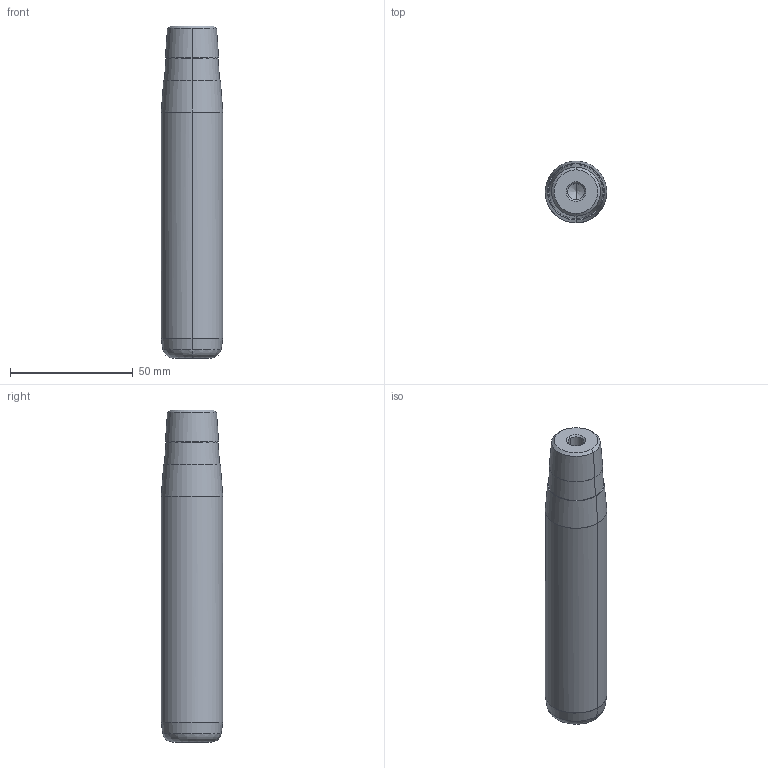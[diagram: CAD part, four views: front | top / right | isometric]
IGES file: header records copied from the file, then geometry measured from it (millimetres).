
Start section: START RECORD GO HERE.
Global section: file name: 722-25x112x135.igs; native system: DASSAULT SYSTEMES CATIA V5 R20 - www.3ds.com; preprocessor: CATIA Version 5 Release 20 ; author: Utente; organization: NB04-ASUS; date: 20210109.090813; units: millimetre
Bounding box: 25 x 25 x 135 mm (x, y, z)
Surface area: 11989.4 mm2 (no closed solid volume)
Topology: 0 solids, 0 shells, 32 faces, 192 edges, 188 vertices
Faces by surface type: revolution 30, plane 2
